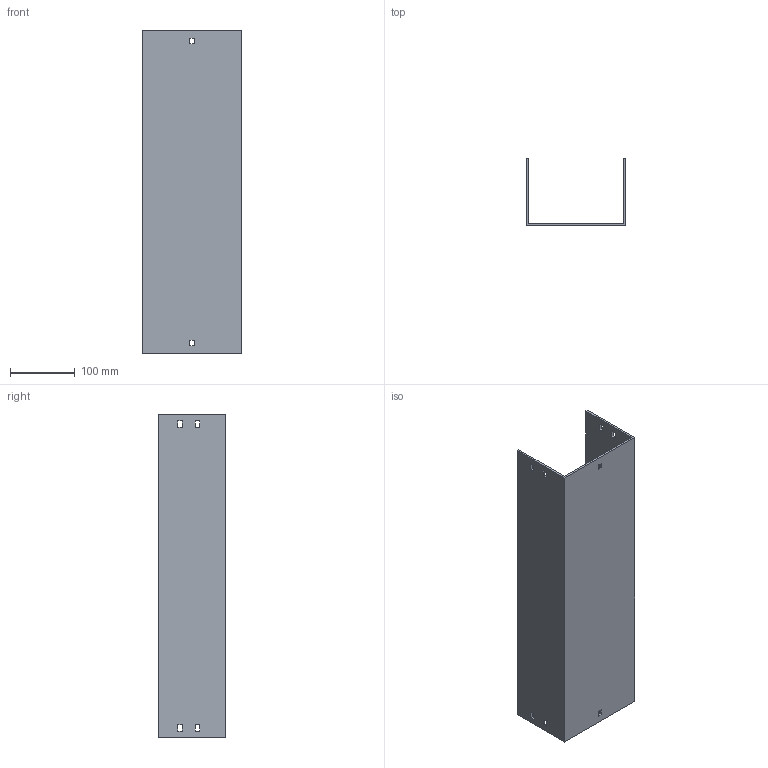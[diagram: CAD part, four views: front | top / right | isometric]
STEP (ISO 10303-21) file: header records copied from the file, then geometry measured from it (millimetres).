
FILE_DESCRIPTION (( 'STEP AP214' ), '1' );
FILE_NAME ('03F7D150.step', '2025-02-21T13:16:40', ( '' ), ( '' ), 'SwSTEP 2.0', 'SolidWorks 2023', '' );
FILE_SCHEMA (( 'AUTOMOTIVE_DESIGN' ));
Length unit declared in the file: millimetre
Products named in the file (1): 03F7D150
Bounding box: 154 x 104 x 500 mm (x, y, z)
Volume: 618880.5 mm3; surface area: 360800 mm2
Topology: 1 solids, 1 shells, 50 faces, 144 edges, 96 vertices
Faces by surface type: plane 50
Entity records: 1671 total; most frequent: CARTESIAN_POINT 291, ORIENTED_EDGE 288, DIRECTION 246, LINE 144, EDGE_CURVE 144, VECTOR 144, VERTEX_POINT 96, EDGE_LOOP 70
